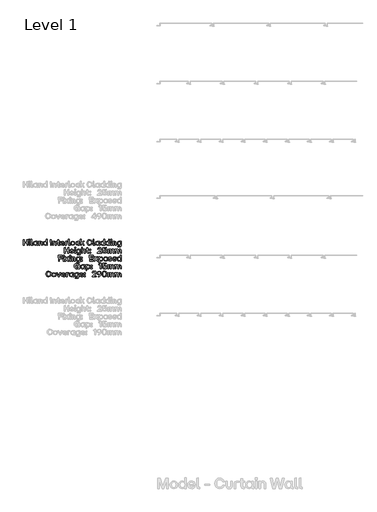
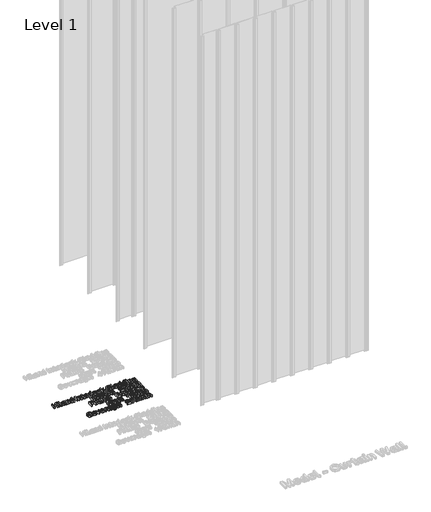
# One storey, part 52 of 64: 1 proxy.
"""IFC4 building model written with IfcOpenShell, lengths in millimetres."""

from ifc_helpers import new_model, si_unit, origin, origin_with_axes, place, context, project, spatial, polyline, outline, extrude, element, save

model = new_model("IFC4")

# Units and contexts
model_context = context("Model", 3, world=origin())
ifc_project = project(units=[si_unit("LENGTHUNIT", "METRE", prefix="MILLI")], contexts=[model_context])

# Site, building, storey
site = spatial("IfcSite", under=ifc_project)
building = spatial("IfcBuilding", under=site)
storey = spatial("IfcBuildingStorey", under=building, Name="Level 1", Elevation=0.0)

# Proxy
placement = place(None, origin())
element("IfcBuildingElementProxy", 1, Name="50mm", ObjectType="50mm", at=placement, inside=storey, context=model_context, shape_type="SweptSolid", body=[
    extrude(outline(polyline([(-1116.4360885, 596.9748178), (-1117.1334203, 618.9128767), (-1140.9821684, 618.9128767), (-1140.9821684, 597.6721497), (-1148.4854587, 596.9748178), (-1149.2106838, 646.2482839), (-1141.7213401, 646.973509), (-1140.9821684, 625.8861949), (-1117.1334203, 625.8861949), (-1117.1334203, 646.2482839), (-1109.6440766, 646.973509), (-1108.9467448, 597.6721497), (-1116.4360885, 596.9748178)])), origin_with_axes(), (0.0, 0.0, 1.0), 20.0),
    extrude(outline(polyline([(-1098.8493802, 596.9748178), (-1099.5746052, 632.6782068), (-1092.3641943, 633.3755386), (-1091.6668625, 597.6721497), (-1098.8493802, 596.9748178)])), origin_with_axes(), (0.0, 0.0, 1.0), 20.0),
    extrude(outline(polyline([(-1099.7838048, 640.0420307), (-1100.1324707, 648.0892399), (-1091.7365957, 648.8284116), (-1090.9974239, 640.3906966), (-1099.7838048, 640.0420307)])), origin_with_axes(), (0.0, 0.0, 1.0), 20.0),
    extrude(outline(polyline([(-1072.2670914, 596.9748178), (-1079.9656346, 599.6246787), (-1082.6154955, 607.3371686), (-1082.6154955, 647.6708408), (-1075.4050846, 648.4100125), (-1074.7077527, 603.2508042), (-1068.0412606, 603.2508042), (-1067.3439288, 597.6721497), (-1072.2670914, 596.9748178)])), origin_with_axes(), (0.0, 0.0, 1.0), 20.0),
    extrude(outline(polyline([(-1047.1770927, 596.5564188), (-1058.9480537, 601.5981278), (-1063.3272975, 615.105445), (-1058.9480537, 628.7452553), (-1047.1770927, 633.8357776), (-1040.5594138, 632.2319144), (-1035.5734913, 627.838724), (-1035.2527187, 632.6782068), (-1028.070201, 633.3755386), (-1027.3449759, 603.2508042), (-1023.3980778, 603.2508042), (-1022.700746, 597.6721497), (-1028.6977996, 596.9748178), (-1033.3524895, 598.282315), (-1034.9040528, 602.2048065), (-1040.2595611, 598.1602819), (-1047.1770927, 596.5564188)]), holes=[polyline([(-1055.2661417, 615.105445), (-1052.5116811, 606.2144644), (-1044.9874708, 602.9718715), (-1037.6236468, 606.2005178), (-1034.9737859, 615.105445), (-1037.6445668, 624.1010254), (-1044.9874708, 627.378485), (-1052.5116811, 624.1010254), (-1055.2661417, 615.105445)])]), origin_with_axes(), (0.0, 0.0, 1.0), 20.0),
    extrude(outline(polyline([(-1015.839001, 596.9748178), (-1016.564226, 632.6782068), (-1009.702481, 633.3755386), (-1009.0051492, 627.838724), (-1003.8414071, 632.3365142), (-997.2202415, 633.8357776), (-987.6598223, 629.6517867), (-984.3474962, 617.40664), (-984.3474962, 597.6721497), (-991.5718538, 596.9748178), (-992.2970789, 617.40664), (-994.249608, 624.7844106), (-1000.4209945, 627.0995522), (-1006.6481676, 624.749544), (-1008.6564833, 617.40664), (-1008.6564833, 597.6721497), (-1015.839001, 596.9748178)])), origin_with_axes(), (0.0, 0.0, 1.0), 20.0),
    extrude(outline(polyline([(-961.4889593, 596.5564188), (-973.2599204, 601.5981278), (-977.6391641, 615.105445), (-973.2599204, 628.7452553), (-961.4889593, 633.8357776), (-954.8712804, 632.2319144), (-949.8853579, 627.838724), (-949.5645853, 647.6708408), (-942.3820676, 648.4100125), (-941.6568425, 597.6721497), (-948.5185876, 596.9748178), (-949.2159194, 602.4837392), (-954.5714277, 598.1602819), (-961.4889593, 596.5564188)]), holes=[polyline([(-969.5780084, 615.105445), (-966.8235477, 606.2144644), (-959.2993374, 602.9718715), (-951.9355135, 606.2005178), (-949.2856526, 615.105445), (-951.9564334, 624.1010254), (-959.2993374, 627.378485), (-966.8235477, 624.1010254), (-969.5780084, 615.105445)])]), origin_with_axes(), (0.0, 0.0, 1.0), 20.0),
    extrude(outline(polyline([(-914.2795955, 596.9748178), (-914.9769273, 646.2482839), (-907.473637, 646.973509), (-906.7763051, 597.6721497), (-914.2795955, 596.9748178)])), origin_with_axes(), (0.0, 0.0, 1.0), 20.0),
    extrude(outline(polyline([(-896.2326481, 596.9748178), (-896.9578732, 632.6782068), (-890.0961281, 633.3755386), (-889.3987963, 627.838724), (-884.2350542, 632.3365142), (-877.6138887, 633.8357776), (-868.0534695, 629.6517867), (-864.7411434, 617.40664), (-864.7411434, 597.6721497), (-871.965501, 596.9748178), (-872.6907261, 617.40664), (-874.6432551, 624.7844106), (-880.8146417, 627.0995522), (-887.0418148, 624.749544), (-889.0501304, 617.40664), (-889.0501304, 597.6721497), (-896.2326481, 596.9748178)])), origin_with_axes(), (0.0, 0.0, 1.0), 20.0),
    extrude(outline(polyline([(-841.4642074, 596.9748178), (-849.1766973, 599.6246787), (-851.8265582, 607.3371686), (-851.8265582, 627.0995522), (-858.0328113, 627.0995522), (-858.7580364, 632.6782068), (-851.8265582, 633.3755386), (-851.8265582, 643.3892234), (-844.6022006, 644.1144485), (-843.9048687, 633.3755386), (-835.1184879, 633.3755386), (-834.3932628, 627.838724), (-843.9048687, 627.0995522), (-843.9048687, 603.2508042), (-835.1184879, 603.2508042), (-834.3932628, 597.6721497), (-841.4642074, 596.9748178)])), origin_with_axes(), (0.0, 0.0, 1.0), 20.0),
    extrude(outline(polyline([(-811.0605403, 596.5564188), (-824.4632578, 601.5981278), (-829.4701002, 615.105445), (-824.4841777, 628.759202), (-811.0605403, 633.8357776), (-798.780527, 628.8289351), (-794.2827368, 615.1751782), (-794.2827368, 613.264489), (-821.3392112, 612.5253173), (-818.2709512, 605.482266), (-811.0605403, 602.9718715), (-805.2726862, 604.2479887), (-802.2741594, 607.8253009), (-795.1892682, 608.4110596), (-799.8474447, 599.6455987), (-811.0605403, 596.5564188)]), holes=[polyline([(-821.269478, 618.3131714), (-802.0649599, 618.3131714), (-804.7078474, 624.9587436), (-811.0605403, 627.378485), (-818.1524048, 625.07729), (-821.269478, 618.3131714)])]), origin_with_axes(), (0.0, 0.0, 1.0), 20.0),
    extrude(outline(polyline([(-786.8212864, 596.9748178), (-787.5186182, 623.0550277), (-784.8687573, 630.7465976), (-777.1702141, 633.3755386), (-767.0170629, 633.3755386), (-766.3197311, 627.378485), (-779.6108754, 626.6811531), (-779.6108754, 597.6721497), (-786.8212864, 596.9748178)])), origin_with_axes(), (0.0, 0.0, 1.0), 20.0),
    extrude(outline(polyline([(-749.1514218, 596.9748178), (-756.849965, 599.6246787), (-759.4998259, 607.3371686), (-759.4998259, 647.6708408), (-752.2894149, 648.4100125), (-751.5920831, 603.2508042), (-744.925591, 603.2508042), (-744.2282592, 597.6721497), (-749.1514218, 596.9748178)])), origin_with_axes(), (0.0, 0.0, 1.0), 20.0),
    extrude(outline(polyline([(-722.0112676, 596.5564188), (-735.1699189, 601.6818076), (-740.2116279, 615.105445), (-735.1559723, 628.6406555), (-722.0112676, 633.8357776), (-708.7410431, 628.6406555), (-703.6714408, 615.105445), (-708.7410431, 601.6818076), (-722.0112676, 596.5564188)]), holes=[polyline([(-732.1504721, 615.105445), (-729.451798, 606.2005178), (-722.0112676, 602.9718715), (-714.4731106, 606.2144644), (-711.71865, 615.105445), (-714.459164, 624.1010254), (-722.0112676, 627.378485), (-729.451798, 624.1010254), (-732.1504721, 615.105445)])]), origin_with_axes(), (0.0, 0.0, 1.0), 20.0),
    extrude(outline(polyline([(-679.9203192, 596.5564188), (-693.2533035, 601.5981278), (-698.2601459, 615.105445), (-693.1835703, 628.6406555), (-679.9203192, 633.8357776), (-668.84669, 630.3979317), (-663.630648, 621.3116982), (-670.6458061, 620.5446332), (-674.216145, 625.844355), (-679.9203192, 627.378485), (-687.4793961, 624.1010254), (-690.1989902, 615.105445), (-687.4654495, 606.1795978), (-679.9203192, 602.9718715), (-674.041812, 604.4362683), (-671.0642052, 609.1781246), (-663.9793139, 609.8475631), (-668.6374905, 599.9942646), (-679.9203192, 596.5564188)])), origin_with_axes(), (0.0, 0.0, 1.0), 20.0),
    extrude(outline(polyline([(-655.234773, 596.9748178), (-655.9599981, 647.6708408), (-648.7495871, 648.4100125), (-648.0522553, 617.6158396), (-632.8085818, 633.0268727), (-624.9008391, 633.3755386), (-637.6201714, 618.4526377), (-623.5340687, 597.8534559), (-631.1768254, 596.9748178), (-642.8919999, 613.264489), (-648.0522553, 608.2018601), (-648.0522553, 597.6721497), (-655.234773, 596.9748178)])), origin_with_axes(), (0.0, 0.0, 1.0), 20.0),
    extrude(outline(polyline([(-577.2451828, 596.5564188), (-587.2518944, 598.2701117), (-594.9574109, 603.4111905), (-599.8736002, 611.4810629), (-601.51233, 621.9811367), (-599.8596536, 632.3051342), (-594.9016244, 640.4046433), (-587.1821612, 645.6450918), (-577.2451828, 647.391908), (-563.0684271, 642.7755714), (-556.1160289, 630.4885849), (-563.4380129, 629.6796799), (-568.601755, 637.8698421), (-577.2451828, 640.3906966), (-588.9045708, 635.4535874), (-593.1443482, 621.9811367), (-588.9254907, 608.397113), (-577.2451828, 603.5297369), (-568.4309087, 606.0157248), (-563.7448389, 613.4736886), (-556.3252284, 614.1291805), (-562.7894943, 601.1588087), (-577.2451828, 596.5564188)])), origin_with_axes(), (0.0, 0.0, 1.0), 20.0),
    extrude(outline(polyline([(-537.6088425, 596.9748178), (-545.3073857, 599.6246787), (-547.9572466, 607.3371686), (-547.9572466, 647.6708408), (-540.7468357, 648.4100125), (-540.0495039, 603.2508042), (-533.3830117, 603.2508042), (-532.6856799, 597.6721497), (-537.6088425, 596.9748178)])), origin_with_axes(), (0.0, 0.0, 1.0), 20.0),
    extrude(outline(polyline([(-512.5188438, 596.5564188), (-524.2898048, 601.5981278), (-528.6690486, 615.105445), (-524.2898048, 628.7452553), (-512.5188438, 633.8357776), (-505.9011649, 632.2319144), (-500.9152424, 627.838724), (-500.5944698, 632.6782068), (-493.4119521, 633.3755386), (-492.686727, 603.2508042), (-488.7398289, 603.2508042), (-488.0424971, 597.6721497), (-494.0395507, 596.9748178), (-498.6942406, 598.282315), (-500.2458039, 602.2048065), (-505.6013122, 598.1602819), (-512.5188438, 596.5564188)]), holes=[polyline([(-520.6078929, 615.105445), (-517.8534322, 606.2144644), (-510.3292219, 602.9718715), (-502.965398, 606.2005178), (-500.3155371, 615.105445), (-502.9863179, 624.1010254), (-510.3292219, 627.378485), (-517.8534322, 624.1010254), (-520.6078929, 615.105445)])]), origin_with_axes(), (0.0, 0.0, 1.0), 20.0),
    extrude(outline(polyline([(-467.8896077, 596.5564188), (-479.6605687, 601.5981278), (-484.0398125, 615.105445), (-479.6605687, 628.7452553), (-467.8896077, 633.8357776), (-461.2719288, 632.2319144), (-456.2860063, 627.838724), (-455.9652337, 647.6708408), (-448.782716, 648.4100125), (-448.0574909, 597.6721497), (-454.9192359, 596.9748178), (-455.6165677, 602.4837392), (-460.9720761, 598.1602819), (-467.8896077, 596.5564188)]), holes=[polyline([(-475.9786567, 615.105445), (-473.2241961, 606.2144644), (-465.6999858, 602.9718715), (-458.3361618, 606.2005178), (-455.6863009, 615.105445), (-458.3570818, 624.1010254), (-465.6999858, 627.378485), (-473.2241961, 624.1010254), (-475.9786567, 615.105445)])]), origin_with_axes(), (0.0, 0.0, 1.0), 20.0),
    extrude(outline(polyline([(-425.045541, 596.5564188), (-436.816502, 601.5981278), (-441.1957458, 615.105445), (-436.816502, 628.7452553), (-425.045541, 633.8357776), (-418.4278621, 632.2319144), (-413.4419396, 627.838724), (-413.121167, 647.6708408), (-405.9386493, 648.4100125), (-405.2134242, 597.6721497), (-412.0751692, 596.9748178), (-412.7725011, 602.4837392), (-418.1280094, 598.1602819), (-425.045541, 596.5564188)]), holes=[polyline([(-433.13459, 615.105445), (-430.3801294, 606.2144644), (-422.8559191, 602.9718715), (-415.4920951, 606.2005178), (-412.8422342, 615.105445), (-415.5130151, 624.1010254), (-422.8559191, 627.378485), (-430.3801294, 624.1010254), (-433.13459, 615.105445)])]), origin_with_axes(), (0.0, 0.0, 1.0), 20.0),
    extrude(outline(polyline([(-395.4926187, 596.9748178), (-396.2178438, 632.6782068), (-389.0074328, 633.3755386), (-388.310101, 597.6721497), (-395.4926187, 596.9748178)])), origin_with_axes(), (0.0, 0.0, 1.0), 20.0),
    extrude(outline(polyline([(-396.4270433, 640.0420307), (-396.7757092, 648.0892399), (-388.3798342, 648.8284116), (-387.6406625, 640.3906966), (-396.4270433, 640.0420307)])), origin_with_axes(), (0.0, 0.0, 1.0), 20.0),
    extrude(outline(polyline([(-378.533509, 596.9748178), (-379.258734, 632.6782068), (-372.396989, 633.3755386), (-371.6996572, 627.838724), (-366.5359151, 632.3365142), (-359.9147495, 633.8357776), (-350.3543303, 629.6517867), (-347.0420042, 617.40664), (-347.0420042, 597.6721497), (-354.2663618, 596.9748178), (-354.9915869, 617.40664), (-356.944116, 624.7844106), (-363.1155025, 627.0995522), (-369.3426756, 624.749544), (-371.3509913, 617.40664), (-371.3509913, 597.6721497), (-378.533509, 596.9748178)])), origin_with_axes(), (0.0, 0.0, 1.0), 20.0),
    extrude(outline(polyline([(-332.7606486, 583.4186874), (-333.4998204, 588.9973419), (-312.2590933, 589.6946737), (-312.2590933, 602.5534724), (-317.5657884, 598.1602819), (-324.1834673, 596.5564188), (-335.9544284, 601.6329944), (-340.3336722, 615.2449114), (-335.9544284, 628.7801219), (-324.1834673, 633.8357776), (-317.2659357, 632.2319144), (-312.1893601, 627.9084571), (-311.9104274, 632.6782068), (-305.0765756, 633.3755386), (-304.3513505, 593.4184256), (-306.9314782, 585.9778951), (-314.3510887, 583.4186874), (-332.7606486, 583.4186874)]), holes=[polyline([(-332.2725164, 615.2449114), (-329.5180557, 606.249331), (-321.9938454, 602.9718715), (-314.6509414, 606.249331), (-311.9801606, 615.2449114), (-314.6300215, 624.156812), (-321.9938454, 627.378485), (-329.5180557, 624.135892), (-332.2725164, 615.2449114)])]), origin_with_axes(), (0.0, 0.0, 1.0), 20.0),
    extrude(outline(polyline([(-763.8651231, 529.1231234), (-764.5624549, 551.0611823), (-788.4112029, 551.0611823), (-788.4112029, 529.8204552), (-795.9144933, 529.1231234), (-796.6397184, 578.3965894), (-789.1503747, 579.1218145), (-788.4112029, 558.0345004), (-764.5624549, 558.0345004), (-764.5624549, 578.3965894), (-757.0731112, 579.1218145), (-756.3757794, 529.8204552), (-763.8651231, 529.1231234)])), origin_with_axes(), (0.0, 0.0, 1.0), 20.0),
    extrude(outline(polyline([(-730.7279152, 528.7047243), (-744.1306327, 533.7464333), (-749.1374751, 547.2537506), (-744.1515527, 560.9075075), (-730.7279152, 565.9840831), (-718.447902, 560.9772407), (-713.9501118, 547.3234838), (-713.9501118, 545.4127946), (-741.0065862, 544.6736229), (-737.9383262, 537.6305715), (-730.7279152, 535.120177), (-724.9400612, 536.3962942), (-721.9415344, 539.9736064), (-714.8566431, 540.5593652), (-719.5148197, 531.7939042), (-730.7279152, 528.7047243)]), holes=[polyline([(-740.936853, 550.4614769), (-721.7323348, 550.4614769), (-724.3752224, 557.1070491), (-730.7279152, 559.5267905), (-737.8197798, 557.2255955), (-740.936853, 550.4614769)])]), origin_with_axes(), (0.0, 0.0, 1.0), 20.0),
    extrude(outline(polyline([(-706.1121022, 529.1231234), (-706.8373273, 564.8265123), (-699.6269163, 565.5238441), (-698.9295845, 529.8204552), (-706.1121022, 529.1231234)])), origin_with_axes(), (0.0, 0.0, 1.0), 20.0),
    extrude(outline(polyline([(-707.0465268, 572.1903363), (-707.3951927, 580.2375454), (-698.9993177, 580.9767171), (-698.2601459, 572.5390022), (-707.0465268, 572.1903363)])), origin_with_axes(), (0.0, 0.0, 1.0), 20.0),
    extrude(outline(polyline([(-684.4390294, 515.5669929), (-685.1782011, 521.1456474), (-663.937474, 521.8429792), (-663.937474, 534.7017779), (-669.2441691, 530.3085875), (-675.8618481, 528.7047243), (-687.6328091, 533.7812999), (-692.0120529, 547.3932169), (-687.6328091, 560.9284275), (-675.8618481, 565.9840831), (-668.9443165, 564.3802199), (-663.8677409, 560.0567627), (-663.5888081, 564.8265123), (-656.7549563, 565.5238441), (-656.0297313, 525.5667311), (-658.609859, 518.1262007), (-666.0294695, 515.5669929), (-684.4390294, 515.5669929)]), holes=[polyline([(-683.9508971, 547.3932169), (-681.1964364, 538.3976365), (-673.6722262, 535.120177), (-666.3293222, 538.3976365), (-663.6585413, 547.3932169), (-666.3084022, 556.3051175), (-673.6722262, 559.5267905), (-681.1964364, 556.2841976), (-683.9508971, 547.3932169)])]), origin_with_axes(), (0.0, 0.0, 1.0), 20.0),
    extrude(outline(polyline([(-646.3089258, 529.1231234), (-647.0341508, 579.8191463), (-639.8237399, 580.558318), (-639.1264081, 560.2659622), (-634.0393725, 564.5545529), (-627.6901663, 565.9840831), (-618.1297471, 561.8000922), (-614.817421, 549.5549456), (-614.817421, 529.8204552), (-622.0417786, 529.1231234), (-622.7670037, 549.5549456), (-624.7195328, 556.9327162), (-630.8909193, 559.2478578), (-637.1180924, 556.8978496), (-639.1264081, 549.5549456), (-639.1264081, 529.8204552), (-646.3089258, 529.1231234)])), origin_with_axes(), (0.0, 0.0, 1.0), 20.0),
    extrude(outline(polyline([(-591.540485, 529.1231234), (-599.2529749, 531.7729843), (-601.9028358, 539.4854742), (-601.9028358, 559.2478578), (-608.109089, 559.2478578), (-608.834314, 564.8265123), (-601.9028358, 565.5238441), (-601.9028358, 575.537529), (-594.6784782, 576.2627541), (-593.9811464, 565.5238441), (-585.1947655, 565.5238441), (-584.4695404, 559.9870295), (-593.9811464, 559.2478578), (-593.9811464, 535.3991097), (-585.1947655, 535.3991097), (-584.4695404, 529.8204552), (-591.540485, 529.1231234)])), origin_with_axes(), (0.0, 0.0, 1.0), 20.0),
    extrude(outline(polyline([(-577.0638766, 552.7626719), (-577.7612084, 562.3858509), (-568.2774957, 563.1250227), (-567.5522706, 553.4600037), (-577.0638766, 552.7626719)])), origin_with_axes(), (0.0, 0.0, 1.0), 20.0),
    extrude(outline(polyline([(-577.4125425, 529.4717893), (-577.7612084, 538.7463024), (-568.2774957, 539.4854742), (-567.5522706, 529.8204552), (-577.4125425, 529.4717893)])), origin_with_axes(), (0.0, 0.0, 1.0), 20.0),
    extrude(outline(polyline([(-509.5761036, 529.1231234), (-510.3013286, 533.9068196), (-492.9377665, 549.9036115), (-485.7901154, 557.8183276), (-483.8027197, 565.105445), (-485.783142, 570.7852127), (-491.7244091, 572.6784685), (-498.5931275, 570.6004197), (-501.4452146, 564.031554), (-508.8787717, 563.3342222), (-504.2903284, 575.5305557), (-491.7244091, 579.5402136), (-479.8976615, 575.670022), (-475.5742043, 565.105445), (-478.2589318, 555.328853), (-487.4288451, 544.9246623), (-496.8846645, 536.4172142), (-474.1516474, 536.1382814), (-473.4543156, 529.8204552), (-509.5761036, 529.1231234)])), origin_with_axes(), (0.0, 0.0, 1.0), 20.0),
    extrude(outline(polyline([(-448.1969572, 528.7047243), (-461.3974485, 532.4005829), (-467.2062225, 543.1115996), (-459.8423985, 543.9065579), (-455.634001, 537.4736719), (-448.1969572, 535.5385761), (-440.7912934, 538.2233036), (-438.197219, 545.8311937), (-440.7773467, 553.1322578), (-448.3364236, 555.6217323), (-458.6987744, 551.6887809), (-463.5382572, 551.9677136), (-462.4922594, 578.3965894), (-432.8556573, 579.1218145), (-432.1304322, 572.8179349), (-455.8397139, 572.1206031), (-456.6346722, 559.4570573), (-451.4604701, 561.6536525), (-445.7562959, 562.4555841), (-434.2015077, 558.0275271), (-429.9965969, 545.8311937), (-434.8081864, 533.2234345), (-448.1969572, 528.7047243)])), origin_with_axes(), (0.0, 0.0, 1.0), 20.0),
    extrude(outline(polyline([(-421.3775756, 529.1231234), (-422.1028007, 564.8265123), (-415.2410557, 565.5238441), (-414.5437239, 559.9870295), (-409.5578014, 564.4848197), (-403.1074821, 565.9840831), (-396.8210358, 564.4848197), (-392.605665, 559.9870295), (-386.7829443, 564.4290332), (-379.5376668, 565.9840831), (-370.2631536, 561.8140389), (-367.0554273, 549.5549456), (-367.0554273, 529.8204552), (-374.2658383, 529.1231234), (-374.9631701, 549.5549456), (-376.845966, 556.9327162), (-382.8151263, 559.2478578), (-388.7215268, 556.8978496), (-390.6252426, 549.5549456), (-390.6252426, 529.8204552), (-397.8356536, 529.1231234), (-398.5329854, 549.5549456), (-400.4018347, 556.9327162), (-406.3152085, 559.2478578), (-412.2913421, 556.8978496), (-414.195058, 549.5549456), (-414.195058, 529.8204552), (-421.3775756, 529.1231234)])), origin_with_axes(), (0.0, 0.0, 1.0), 20.0),
    extrude(outline(polyline([(-358.0040603, 529.1231234), (-358.7292854, 564.8265123), (-351.8675404, 565.5238441), (-351.1702086, 559.9870295), (-346.1842861, 564.4848197), (-339.7339668, 565.9840831), (-333.4475205, 564.4848197), (-329.2321497, 559.9870295), (-323.409429, 564.4290332), (-316.1641515, 565.9840831), (-306.8896383, 561.8140389), (-303.681912, 549.5549456), (-303.681912, 529.8204552), (-310.8923229, 529.1231234), (-311.5896548, 549.5549456), (-313.4724507, 556.9327162), (-319.441611, 559.2478578), (-325.3480115, 556.8978496), (-327.2517273, 549.5549456), (-327.2517273, 529.8204552), (-334.4621383, 529.1231234), (-335.1594701, 549.5549456), (-337.0283194, 556.9327162), (-342.9416931, 559.2478578), (-348.9178268, 556.8978496), (-350.8215426, 549.5549456), (-350.8215426, 529.8204552), (-358.0040603, 529.1231234)])), origin_with_axes(), (0.0, 0.0, 1.0), 20.0),
    extrude(outline(polyline([(-845.006653, 461.2714289), (-845.7318781, 510.544895), (-814.1427469, 511.27012), (-813.4454151, 504.9662404), (-837.5033627, 504.2689086), (-837.5033627, 489.2065414), (-815.5792504, 489.2065414), (-814.8819186, 482.9305551), (-837.5033627, 482.1913834), (-837.5033627, 461.9687608), (-845.006653, 461.2714289)])), origin_with_axes(), (0.0, 0.0, 1.0), 20.0),
    extrude(outline(polyline([(-805.1890064, 461.2714289), (-805.9142315, 496.9748178), (-798.7038205, 497.6721497), (-798.0064887, 461.9687608), (-805.1890064, 461.2714289)])), origin_with_axes(), (0.0, 0.0, 1.0), 20.0),
    extrude(outline(polyline([(-806.123431, 504.3386418), (-806.4720969, 512.3858509), (-798.0762219, 513.1250227), (-797.3370502, 504.6873077), (-806.123431, 504.3386418)])), origin_with_axes(), (0.0, 0.0, 1.0), 20.0),
    extrude(outline(polyline([(-791.0889571, 461.2714289), (-778.3277849, 479.750722), (-790.5310917, 496.8353515), (-782.5396691, 497.6721497), (-773.7532882, 485.6780424), (-765.5247728, 497.2537506), (-757.4078305, 497.6721497), (-769.0114319, 480.5596269), (-755.9713269, 462.150067), (-763.9627495, 461.2714289), (-773.683555, 474.7020397), (-782.9580681, 461.689828), (-791.0889571, 461.2714289)])), origin_with_axes(), (0.0, 0.0, 1.0), 20.0),
    extrude(outline(polyline([(-748.9561689, 461.2714289), (-749.681394, 496.9748178), (-742.470983, 497.6721497), (-741.7736512, 461.9687608), (-748.9561689, 461.2714289)])), origin_with_axes(), (0.0, 0.0, 1.0), 20.0),
    extrude(outline(polyline([(-749.8905935, 504.3386418), (-750.2392594, 512.3858509), (-741.8433844, 513.1250227), (-741.1042126, 504.6873077), (-749.8905935, 504.3386418)])), origin_with_axes(), (0.0, 0.0, 1.0), 20.0),
    extrude(outline(polyline([(-731.9970591, 461.2714289), (-732.7222842, 496.9748178), (-725.8605392, 497.6721497), (-725.1632074, 492.1353351), (-719.9994653, 496.6331253), (-713.3782997, 498.1323887), (-703.8178805, 493.9483978), (-700.5055544, 481.7032511), (-700.5055544, 461.9687608), (-707.729912, 461.2714289), (-708.4551371, 481.7032511), (-710.4076662, 489.0810217), (-716.5790527, 491.3961633), (-722.8062258, 489.0461551), (-724.8145414, 481.7032511), (-724.8145414, 461.9687608), (-731.9970591, 461.2714289)])), origin_with_axes(), (0.0, 0.0, 1.0), 20.0),
    extrude(outline(polyline([(-686.2241988, 447.7152985), (-686.9633706, 453.293953), (-665.7226435, 453.9912848), (-665.7226435, 466.8500835), (-671.0293386, 462.456893), (-677.6470175, 460.8530298), (-689.4179785, 465.9296055), (-693.7972223, 479.5415225), (-689.4179785, 493.076733), (-677.6470175, 498.1323887), (-670.7294859, 496.5285255), (-665.6529103, 492.2050682), (-665.3739776, 496.9748178), (-658.5401258, 497.6721497), (-657.8149007, 457.7150367), (-660.3950284, 450.2745062), (-667.8146389, 447.7152985), (-686.2241988, 447.7152985)]), holes=[polyline([(-685.7360666, 479.5415225), (-682.9816059, 470.5459421), (-675.4573956, 467.2684825), (-668.1144916, 470.5459421), (-665.4437108, 479.5415225), (-668.0935716, 488.4534231), (-675.4573956, 491.6750961), (-682.9816059, 488.4325031), (-685.7360666, 479.5415225)])]), origin_with_axes(), (0.0, 0.0, 1.0), 20.0),
    extrude(outline(polyline([(-648.4706544, 484.9109775), (-649.1679862, 494.5341565), (-639.6842735, 495.2733282), (-638.9590484, 485.6083093), (-648.4706544, 484.9109775)])), origin_with_axes(), (0.0, 0.0, 1.0), 20.0),
    extrude(outline(polyline([(-648.8193203, 461.6200948), (-649.1679862, 470.894608), (-639.6842735, 471.6337797), (-638.9590484, 461.9687608), (-648.8193203, 461.6200948)])), origin_with_axes(), (0.0, 0.0, 1.0), 20.0),
    extrude(outline(polyline([(-578.1238209, 461.2714289), (-578.849046, 510.544895), (-546.562583, 511.27012), (-545.8373579, 504.9662404), (-570.6205306, 504.2689086), (-570.6205306, 489.9038732), (-547.9990865, 489.9038732), (-547.2599148, 483.6278869), (-570.6205306, 482.9305551), (-570.6205306, 468.286587), (-545.8373579, 468.286587), (-545.1400261, 461.9687608), (-578.1238209, 461.2714289)])), origin_with_axes(), (0.0, 0.0, 1.0), 20.0),
    extrude(outline(polyline([(-539.3800653, 461.2714289), (-526.6188931, 479.750722), (-538.8221999, 496.8353515), (-530.8307773, 497.6721497), (-522.0443964, 485.6780424), (-513.815881, 497.2537506), (-505.6989387, 497.6721497), (-517.3025401, 480.5596269), (-504.2624351, 462.150067), (-512.2538577, 461.2714289), (-521.9746632, 474.7020397), (-531.2491764, 461.689828), (-539.3800653, 461.2714289)])), origin_with_axes(), (0.0, 0.0, 1.0), 20.0),
    extrude(outline(polyline([(-497.2472771, 447.7152985), (-497.9725022, 496.9748178), (-491.1107571, 497.6721497), (-490.4134253, 492.2050682), (-485.057917, 496.5285255), (-478.1403854, 498.1323887), (-466.3694243, 493.076733), (-461.9901805, 479.5415225), (-466.3694243, 465.9296055), (-478.1403854, 460.8530298), (-484.7580643, 462.456893), (-489.7439868, 466.8500835), (-490.0647594, 448.4126303), (-497.2472771, 447.7152985)]), holes=[polyline([(-490.3436921, 479.5415225), (-487.6729113, 470.5459421), (-480.3300073, 467.2684825), (-472.805797, 470.5459421), (-470.0513363, 479.5415225), (-472.805797, 488.4325031), (-480.3300073, 491.6750961), (-487.6938312, 488.4534231), (-490.3436921, 479.5415225)])]), origin_with_axes(), (0.0, 0.0, 1.0), 20.0),
    extrude(outline(polyline([(-439.0619105, 460.8530298), (-452.2205618, 465.9784187), (-457.2622708, 479.4020561), (-452.2066152, 492.9372666), (-439.0619105, 498.1323887), (-425.791686, 492.9372666), (-420.7220837, 479.4020561), (-425.791686, 465.9784187), (-439.0619105, 460.8530298)]), holes=[polyline([(-449.201115, 479.4020561), (-446.5024409, 470.4971288), (-439.0619105, 467.2684825), (-431.5237535, 470.5110755), (-428.7692929, 479.4020561), (-431.5098069, 488.3976365), (-439.0619105, 491.6750961), (-446.5024409, 488.3976365), (-449.201115, 479.4020561)])]), origin_with_axes(), (0.0, 0.0, 1.0), 20.0),
    extrude(outline(polyline([(-399.6905562, 460.8530298), (-410.4224928, 463.8027434), (-414.8923898, 472.2613783), (-407.9469649, 473.0563366), (-404.8647583, 468.2447471), (-399.6905562, 466.9895498), (-395.2276326, 468.1750139), (-393.5540362, 471.354847), (-394.753447, 474.2139074), (-398.8119181, 475.7061975), (-403.9024404, 476.6127289), (-411.6288769, 480.1551745), (-414.1253248, 487.2540123), (-410.4643327, 495.1687284), (-400.5970876, 498.1323887), (-390.9041754, 495.377928), (-386.6783446, 487.5608383), (-393.6237694, 486.7658801), (-396.3712568, 490.928951), (-400.5970876, 491.9958687), (-404.8508116, 490.8940844), (-406.3152085, 487.7003047), (-405.2692107, 484.9318974), (-401.461779, 483.4186874), (-396.0225909, 482.4005829), (-388.0102483, 478.9139238), (-385.7439199, 471.7732461), (-389.3700454, 463.6772237), (-399.6905562, 460.8530298)])), origin_with_axes(), (0.0, 0.0, 1.0), 20.0),
    extrude(outline(polyline([(-362.0904248, 460.8530298), (-375.4931422, 465.8947389), (-380.4999847, 479.4020561), (-375.5140622, 493.055813), (-362.0904248, 498.1323887), (-349.8104115, 493.1255462), (-345.3126213, 479.4717893), (-345.3126213, 477.5611001), (-372.3690957, 476.8219284), (-369.3008357, 469.7788771), (-362.0904248, 467.2684825), (-356.3025707, 468.5445998), (-353.3040439, 472.121912), (-346.2191527, 472.7076707), (-350.8773292, 463.9422098), (-362.0904248, 460.8530298)]), holes=[polyline([(-372.2993625, 482.6097825), (-353.0948444, 482.6097825), (-355.7377319, 489.2553547), (-362.0904248, 491.6750961), (-369.1822893, 489.3739011), (-372.2993625, 482.6097825)])]), origin_with_axes(), (0.0, 0.0, 1.0), 20.0),
    extrude(outline(polyline([(-324.1834673, 460.8530298), (-335.9544284, 465.8947389), (-340.3336722, 479.4020561), (-335.9544284, 493.0418664), (-324.1834673, 498.1323887), (-317.5657884, 496.5285255), (-312.5798659, 492.1353351), (-312.2590933, 511.9674519), (-305.0765756, 512.7066236), (-304.3513505, 461.9687608), (-311.2130956, 461.2714289), (-311.9104274, 466.7803503), (-317.2659357, 462.456893), (-324.1834673, 460.8530298)]), holes=[polyline([(-332.2725164, 479.4020561), (-329.5180557, 470.5110755), (-321.9938454, 467.2684825), (-314.6300215, 470.4971288), (-311.9801606, 479.4020561), (-314.6509414, 488.3976365), (-321.9938454, 491.6750961), (-329.5180557, 488.3976365), (-332.2725164, 479.4020561)])]), origin_with_axes(), (0.0, 0.0, 1.0), 20.0),
    extrude(outline(polyline([(-686.0847325, 393.0013354), (-695.768928, 394.7097983), (-703.2042285, 399.8351872), (-707.9373682, 407.8998296), (-709.5150814, 418.4260534), (-707.8013885, 428.7936341), (-702.6603097, 436.8844265), (-694.695037, 442.0987251), (-684.5087626, 443.8368247), (-669.9066344, 439.2204881), (-662.75201, 426.9335015), (-670.1158339, 426.1245966), (-675.4504223, 434.2903521), (-684.5087626, 436.8356133), (-696.684176, 431.919424), (-701.1470997, 418.4260534), (-696.9421888, 404.8559762), (-685.2479343, 399.9746535), (-675.115703, 403.4613126), (-670.3947666, 412.9868652), (-685.8755329, 412.9868652), (-686.600758, 419.2628515), (-663.3796086, 419.9880766), (-662.6822768, 394.1170663), (-669.0279963, 393.4197345), (-669.7253281, 400.7138253), (-676.3220871, 395.1142508), (-686.0847325, 393.0013354)])), origin_with_axes(), (0.0, 0.0, 1.0), 20.0),
    extrude(outline(polyline([(-639.2658744, 393.0013354), (-651.0368355, 398.0430444), (-655.4160793, 411.5503617), (-651.0368355, 425.190172), (-639.2658744, 430.2806942), (-632.6481955, 428.676831), (-627.662273, 424.2836406), (-627.3415004, 429.1231234), (-620.1589827, 429.8204552), (-619.4337576, 399.6957208), (-615.4868596, 399.6957208), (-614.7895277, 394.1170663), (-620.7865813, 393.4197345), (-625.4412712, 394.7272316), (-626.9928345, 398.6497231), (-632.3483428, 394.6051986), (-639.2658744, 393.0013354)]), holes=[polyline([(-647.3549235, 411.5503617), (-644.6004628, 402.659381), (-637.0762525, 399.4167881), (-629.7124286, 402.6454344), (-627.0625677, 411.5503617), (-629.7333485, 420.5459421), (-637.0762525, 423.8234016), (-644.6004628, 420.5459421), (-647.3549235, 411.5503617)])]), origin_with_axes(), (0.0, 0.0, 1.0), 20.0),
    extrude(outline(polyline([(-607.9277827, 379.863604), (-608.6530078, 429.1231234), (-601.7912627, 429.8204552), (-601.0939309, 424.3533738), (-595.7384226, 428.676831), (-588.820891, 430.2806942), (-577.0499299, 425.2250385), (-572.6706861, 411.689828), (-577.0499299, 398.077911), (-588.820891, 393.0013354), (-595.4385699, 394.6051986), (-600.4244924, 398.998389), (-600.745265, 380.5609358), (-607.9277827, 379.863604)]), holes=[polyline([(-601.0241977, 411.689828), (-598.3534169, 402.6942476), (-591.0105129, 399.4167881), (-583.4863026, 402.6942476), (-580.7318419, 411.689828), (-583.4863026, 420.5808087), (-591.0105129, 423.8234016), (-598.3743368, 420.6017286), (-601.0241977, 411.689828)])]), origin_with_axes(), (0.0, 0.0, 1.0), 20.0),
    extrude(outline(polyline([(-565.4602752, 417.059283), (-566.157607, 426.682462), (-556.6738943, 427.4216338), (-555.9486692, 417.7566148), (-565.4602752, 417.059283)])), origin_with_axes(), (0.0, 0.0, 1.0), 20.0),
    extrude(outline(polyline([(-565.8089411, 393.7684004), (-566.157607, 403.0429135), (-556.6738943, 403.7820852), (-555.9486692, 394.1170663), (-565.8089411, 393.7684004)])), origin_with_axes(), (0.0, 0.0, 1.0), 20.0),
    extrude(outline(polyline([(-485.0997569, 393.4197345), (-485.8389286, 428.4257916), (-496.8846645, 428.4257916), (-497.6238363, 434.7017779), (-485.4902627, 435.3991097), (-485.4902627, 442.6932005), (-478.1961719, 443.4184256), (-477.4709468, 394.1170663), (-485.0997569, 393.4197345)])), origin_with_axes(), (0.0, 0.0, 1.0), 20.0),
    extrude(outline(polyline([(-448.1969572, 393.0013354), (-461.3974485, 396.697194), (-467.2062225, 407.4082107), (-459.8423985, 408.203169), (-455.634001, 401.770283), (-448.1969572, 399.8351872), (-440.7912934, 402.5199147), (-438.197219, 410.1278048), (-440.7773467, 417.4288689), (-448.3364236, 419.9183434), (-458.6987744, 415.985392), (-463.5382572, 416.2643247), (-462.4922594, 442.6932005), (-432.8556573, 443.4184256), (-432.1304322, 437.114546), (-455.8397139, 436.4172142), (-456.6346722, 423.7536684), (-451.4604701, 425.9502636), (-445.7562959, 426.7521952), (-434.2015077, 422.3241382), (-429.9965969, 410.1278048), (-434.8081864, 397.5200456), (-448.1969572, 393.0013354)])), origin_with_axes(), (0.0, 0.0, 1.0), 20.0),
    extrude(outline(polyline([(-421.3775756, 393.4197345), (-422.1028007, 429.1231234), (-415.2410557, 429.8204552), (-414.5437239, 424.2836406), (-409.5578014, 428.7814308), (-403.1074821, 430.2806942), (-396.8210358, 428.7814308), (-392.605665, 424.2836406), (-386.7829443, 428.7256443), (-379.5376668, 430.2806942), (-370.2631536, 426.11065), (-367.0554273, 413.8515567), (-367.0554273, 394.1170663), (-374.2658383, 393.4197345), (-374.9631701, 413.8515567), (-376.845966, 421.2293273), (-382.8151263, 423.5444689), (-388.7215268, 421.1944607), (-390.6252426, 413.8515567), (-390.6252426, 394.1170663), (-397.8356536, 393.4197345), (-398.5329854, 413.8515567), (-400.4018347, 421.2293273), (-406.3152085, 423.5444689), (-412.2913421, 421.1944607), (-414.195058, 413.8515567), (-414.195058, 394.1170663), (-421.3775756, 393.4197345)])), origin_with_axes(), (0.0, 0.0, 1.0), 20.0),
    extrude(outline(polyline([(-358.0040603, 393.4197345), (-358.7292854, 429.1231234), (-351.8675404, 429.8204552), (-351.1702086, 424.2836406), (-346.1842861, 428.7814308), (-339.7339668, 430.2806942), (-333.4475205, 428.7814308), (-329.2321497, 424.2836406), (-323.409429, 428.7256443), (-316.1641515, 430.2806942), (-306.8896383, 426.11065), (-303.681912, 413.8515567), (-303.681912, 394.1170663), (-310.8923229, 393.4197345), (-311.5896548, 413.8515567), (-313.4724507, 421.2293273), (-319.441611, 423.5444689), (-325.3480115, 421.1944607), (-327.2517273, 413.8515567), (-327.2517273, 394.1170663), (-334.4621383, 393.4197345), (-335.1594701, 413.8515567), (-337.0283194, 421.2293273), (-342.9416931, 423.5444689), (-348.9178268, 421.1944607), (-350.8215426, 413.8515567), (-350.8215426, 394.1170663), (-358.0040603, 393.4197345)])), origin_with_axes(), (0.0, 0.0, 1.0), 20.0),
    extrude(outline(polyline([(-929.8161483, 325.1496409), (-939.8228598, 326.8633339), (-947.5283764, 332.0044127), (-952.4445657, 340.0742851), (-954.0832954, 350.5743589), (-952.430619, 360.8983564), (-947.4725898, 368.9978654), (-939.7531267, 374.238314), (-929.8161483, 375.9851302), (-915.6393925, 371.3687936), (-908.6869943, 359.081807), (-916.0089784, 358.2729021), (-921.1727205, 366.4630643), (-929.8161483, 368.9839188), (-941.4755362, 364.0468096), (-945.7153137, 350.5743589), (-941.4964562, 336.9903352), (-929.8161483, 332.1229591), (-921.0018742, 334.608947), (-916.3158044, 342.0669108), (-908.8961939, 342.7224027), (-915.3604598, 329.7520309), (-929.8161483, 325.1496409)])), origin_with_axes(), (0.0, 0.0, 1.0), 20.0),
    extrude(outline(polyline([(-884.4616871, 325.1496409), (-897.6203384, 330.2750298), (-902.6620474, 343.6986672), (-897.6063918, 357.2338777), (-884.4616871, 362.4289998), (-871.1914626, 357.2338777), (-866.1218604, 343.6986672), (-871.1914626, 330.2750298), (-884.4616871, 325.1496409)]), holes=[polyline([(-894.6008917, 343.6986672), (-891.9022175, 334.7937399), (-884.4616871, 331.5650936), (-876.9235302, 334.8076866), (-874.1690695, 343.6986672), (-876.9095835, 352.6942476), (-884.4616871, 355.9717071), (-891.9022175, 352.6942476), (-894.6008917, 343.6986672)])]), origin_with_axes(), (0.0, 0.0, 1.0), 20.0),
    extrude(outline(polyline([(-848.0191265, 325.56804), (-862.4120551, 361.1319626), (-855.1598042, 361.9687608), (-843.7235625, 332.0532259), (-832.8870261, 361.4108953), (-825.5232021, 361.9687608), (-838.6330402, 326.1259055), (-848.0191265, 325.56804)])), origin_with_axes(), (0.0, 0.0, 1.0), 20.0),
    extrude(outline(polyline([(-803.0272778, 325.1496409), (-816.4299952, 330.19135), (-821.4368377, 343.6986672), (-816.4509152, 357.3524241), (-803.0272778, 362.4289998), (-790.7472645, 357.4221573), (-786.2494743, 343.7684004), (-786.2494743, 341.8577112), (-813.3059487, 341.1185395), (-810.2376887, 334.0754882), (-803.0272778, 331.5650936), (-797.2394237, 332.8412109), (-794.2408969, 336.4185231), (-787.1560057, 337.0042818), (-791.8141822, 328.2388209), (-803.0272778, 325.1496409)]), holes=[polyline([(-813.2362155, 346.9063936), (-794.0316974, 346.9063936), (-796.6745849, 353.5519658), (-803.0272778, 355.9717071), (-810.1191423, 353.6705122), (-813.2362155, 346.9063936)])]), origin_with_axes(), (0.0, 0.0, 1.0), 20.0),
    extrude(outline(polyline([(-778.7880239, 325.56804), (-779.4853557, 351.6482499), (-776.8354948, 359.3398198), (-769.1369516, 361.9687608), (-758.9838004, 361.9687608), (-758.2864685, 355.9717071), (-771.5776129, 355.2743753), (-771.5776129, 326.2653718), (-778.7880239, 325.56804)])), origin_with_axes(), (0.0, 0.0, 1.0), 20.0),
    extrude(outline(polyline([(-737.4501939, 325.1496409), (-749.221155, 330.19135), (-753.6003988, 343.6986672), (-749.221155, 357.3384775), (-737.4501939, 362.4289998), (-730.832515, 360.8251366), (-725.8465925, 356.4319461), (-725.5258199, 361.2714289), (-718.3433022, 361.9687608), (-717.6180771, 331.8440264), (-713.6711791, 331.8440264), (-712.9738472, 326.2653718), (-718.9709008, 325.56804), (-723.6255907, 326.8755372), (-725.177154, 330.7980286), (-730.5326623, 326.7535041), (-737.4501939, 325.1496409)]), holes=[polyline([(-745.539243, 343.6986672), (-742.7847823, 334.8076866), (-735.260572, 331.5650936), (-727.8967481, 334.7937399), (-725.2468872, 343.6986672), (-727.917668, 352.6942476), (-735.260572, 355.9717071), (-742.7847823, 352.6942476), (-745.539243, 343.6986672)])]), origin_with_axes(), (0.0, 0.0, 1.0), 20.0),
    extrude(outline(polyline([(-701.3981391, 312.0119096), (-702.1373108, 317.5905641), (-680.8965838, 318.2878959), (-680.8965838, 331.1466945), (-686.2032789, 326.7535041), (-692.8209578, 325.1496409), (-704.5919188, 330.2262166), (-708.9711626, 343.8381336), (-704.5919188, 357.3733441), (-692.8209578, 362.4289998), (-685.9034262, 360.8251366), (-680.8268506, 356.5016793), (-680.5479179, 361.2714289), (-673.7140661, 361.9687608), (-672.988841, 322.0116478), (-675.5689687, 314.5711173), (-682.9885792, 312.0119096), (-701.3981391, 312.0119096)]), holes=[polyline([(-700.9100068, 343.8381336), (-698.1555462, 334.8425532), (-690.6313359, 331.5650936), (-683.2884319, 334.8425532), (-680.617651, 343.8381336), (-683.2675119, 352.7500342), (-690.6313359, 355.9717071), (-698.1555462, 352.7291142), (-700.9100068, 343.8381336)])]), origin_with_axes(), (0.0, 0.0, 1.0), 20.0),
    extrude(outline(polyline([(-647.717536, 325.1496409), (-661.1202535, 330.19135), (-666.1270959, 343.6986672), (-661.1411735, 357.3524241), (-647.717536, 362.4289998), (-635.4375228, 357.4221573), (-630.9397326, 343.7684004), (-630.9397326, 341.8577112), (-657.996207, 341.1185395), (-654.927947, 334.0754882), (-647.717536, 331.5650936), (-641.929682, 332.8412109), (-638.9311552, 336.4185231), (-631.8462639, 337.0042818), (-636.5044404, 328.2388209), (-647.717536, 325.1496409)]), holes=[polyline([(-657.9264738, 346.9063936), (-638.7219556, 346.9063936), (-641.3648432, 353.5519658), (-647.717536, 355.9717071), (-654.8094006, 353.6705122), (-657.9264738, 346.9063936)])]), origin_with_axes(), (0.0, 0.0, 1.0), 20.0),
    extrude(outline(polyline([(-623.4782822, 349.2075885), (-624.175614, 358.8307676), (-614.6919013, 359.5699393), (-613.9666762, 349.9049204), (-623.4782822, 349.2075885)])), origin_with_axes(), (0.0, 0.0, 1.0), 20.0),
    extrude(outline(polyline([(-623.8269481, 325.9167059), (-624.175614, 335.1912191), (-614.6919013, 335.9303908), (-613.9666762, 326.2653718), (-623.8269481, 325.9167059)])), origin_with_axes(), (0.0, 0.0, 1.0), 20.0),
    extrude(outline(polyline([(-555.9905091, 325.56804), (-556.7157342, 330.3517363), (-539.352172, 346.3485281), (-532.2045209, 354.2632442), (-530.2171253, 361.5503617), (-532.1975476, 367.2301293), (-538.1388147, 369.1233852), (-545.0075331, 367.0453364), (-547.8596202, 360.4764707), (-555.2931773, 359.7791389), (-550.704734, 371.9754723), (-538.1388147, 375.9851302), (-526.3120671, 372.1149387), (-521.9886099, 361.5503617), (-524.6733373, 351.7737696), (-533.8432507, 341.3695789), (-543.2990701, 332.8621308), (-520.566053, 332.5831981), (-519.8687211, 326.2653718), (-555.9905091, 325.56804)])), origin_with_axes(), (0.0, 0.0, 1.0), 20.0),
    extrude(outline(polyline([(-509.0321847, 371.4524734), (-495.0994951, 375.9851302), (-481.1877254, 371.4524734), (-476.2018029, 358.8307676), (-477.9451324, 350.1350399), (-483.4958937, 340.2817413), (-493.5374718, 325.9864391), (-501.8357204, 325.56804), (-490.4692118, 343.2802681), (-497.5401564, 341.8577112), (-509.520317, 346.4949678), (-514.0390272, 358.8307676), (-509.0321847, 371.4524734)]), holes=[polyline([(-503.0490778, 366.4316844), (-505.838405, 358.8377409), (-503.0490778, 351.2368241), (-495.0994951, 348.5520966), (-487.2754321, 351.2507708), (-484.4024251, 358.8307676), (-487.1708324, 366.4386577), (-495.0994951, 369.1233852), (-503.0490778, 366.4316844)])]), origin_with_axes(), (0.0, 0.0, 1.0), 20.0),
    extrude(outline(polyline([(-449.8705536, 325.1496409), (-458.7876842, 326.7500175), (-465.1769869, 331.551147), (-469.0210286, 339.507703), (-470.3023758, 350.5743589), (-469.0210286, 361.6392715), (-465.1769869, 369.5905975), (-458.7876842, 374.386497), (-449.8705536, 375.9851302), (-441.0092096, 374.386497), (-434.6478001, 369.5905975), (-430.8142184, 361.6392715), (-429.5363579, 350.5743589), (-430.8142184, 339.507703), (-434.6478001, 331.551147), (-441.0092096, 326.7500175), (-449.8705536, 325.1496409)]), holes=[polyline([(-459.0892802, 364.6604616), (-461.934394, 350.5743589), (-459.0892802, 336.4673363), (-449.8705536, 332.1229591), (-440.7355068, 336.5161495), (-437.8764464, 350.5673856), (-440.7355068, 364.604675), (-449.8705536, 368.9839188), (-459.0892802, 364.6604616)])]), origin_with_axes(), (0.0, 0.0, 1.0), 20.0),
    extrude(outline(polyline([(-421.3775756, 325.56804), (-422.1028007, 361.2714289), (-415.2410557, 361.9687608), (-414.5437239, 356.4319461), (-409.5578014, 360.9297363), (-403.1074821, 362.4289998), (-396.8210358, 360.9297363), (-392.605665, 356.4319461), (-386.7829443, 360.8739498), (-379.5376668, 362.4289998), (-370.2631536, 358.2589555), (-367.0554273, 345.9998622), (-367.0554273, 326.2653718), (-374.2658383, 325.56804), (-374.9631701, 345.9998622), (-376.845966, 353.3776328), (-382.8151263, 355.6927744), (-388.7215268, 353.3427662), (-390.6252426, 345.9998622), (-390.6252426, 326.2653718), (-397.8356536, 325.56804), (-398.5329854, 345.9998622), (-400.4018347, 353.3776328), (-406.3152085, 355.6927744), (-412.2913421, 353.3427662), (-414.195058, 345.9998622), (-414.195058, 326.2653718), (-421.3775756, 325.56804)])), origin_with_axes(), (0.0, 0.0, 1.0), 20.0),
    extrude(outline(polyline([(-358.0040603, 325.56804), (-358.7292854, 361.2714289), (-351.8675404, 361.9687608), (-351.1702086, 356.4319461), (-346.1842861, 360.9297363), (-339.7339668, 362.4289998), (-333.4475205, 360.9297363), (-329.2321497, 356.4319461), (-323.409429, 360.8739498), (-316.1641515, 362.4289998), (-306.8896383, 358.2589555), (-303.681912, 345.9998622), (-303.681912, 326.2653718), (-310.8923229, 325.56804), (-311.5896548, 345.9998622), (-313.4724507, 353.3776328), (-319.441611, 355.6927744), (-325.3480115, 353.3427662), (-327.2517273, 345.9998622), (-327.2517273, 326.2653718), (-334.4621383, 325.56804), (-335.1594701, 345.9998622), (-337.0283194, 353.3776328), (-342.9416931, 355.6927744), (-348.9178268, 353.3427662), (-350.8215426, 345.9998622), (-350.8215426, 326.2653718), (-358.0040603, 325.56804)])), origin_with_axes(), (0.0, 0.0, 1.0), 20.0),
])

save(model, "model.ifc")
